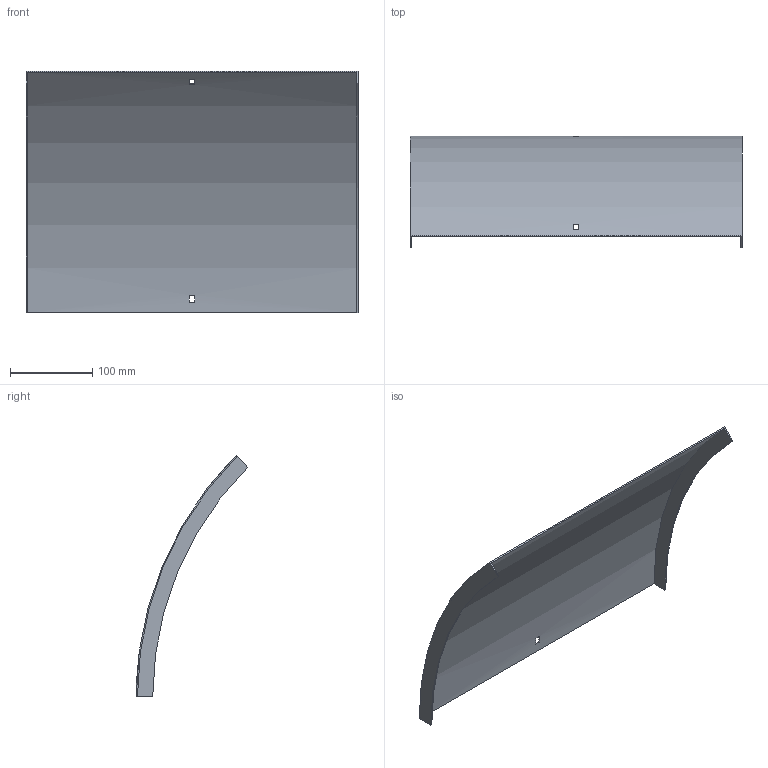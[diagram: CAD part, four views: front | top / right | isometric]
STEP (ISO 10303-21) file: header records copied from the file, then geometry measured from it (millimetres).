
FILE_DESCRIPTION (( 'STEP AP214' ), '1' );
FILE_NAME ('B2_34N3J400.step', '2025-02-21T10:37:03', ( '' ), ( '' ), 'SwSTEP 2.0', 'SolidWorks 2023', '' );
FILE_SCHEMA (( 'AUTOMOTIVE_DESIGN' ));
Length unit declared in the file: millimetre
Products named in the file (1): B2_34N3J400
Bounding box: 403 x 135.4 x 292.74 mm (x, y, z)
Volume: 213601.9 mm3; surface area: 287145.7 mm2
Topology: 1 solids, 1 shells, 18 faces, 48 edges, 32 vertices
Faces by surface type: plane 14, cylinder 4
Entity records: 599 total; most frequent: DIRECTION 102, CARTESIAN_POINT 99, ORIENTED_EDGE 96, EDGE_CURVE 48, AXIS2_PLACEMENT_3D 35, VERTEX_POINT 32, LINE 32, VECTOR 32
